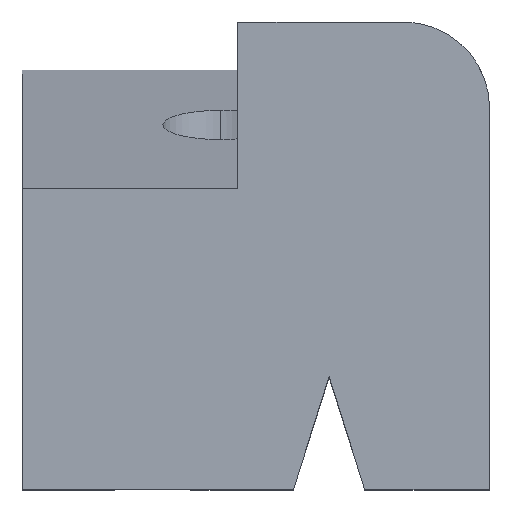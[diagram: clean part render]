
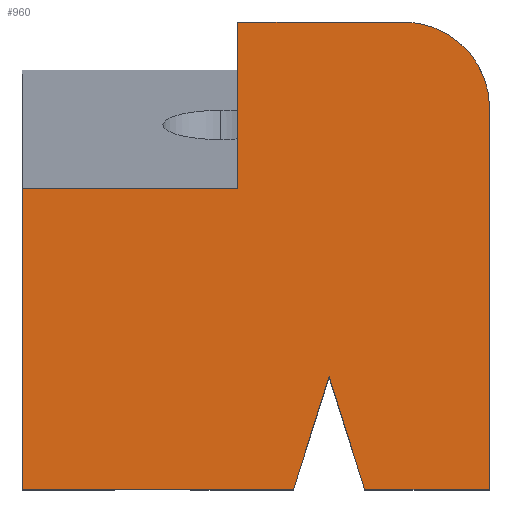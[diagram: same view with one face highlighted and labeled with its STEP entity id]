
A CAD part, top view. The second image highlights one B-rep face of the part: STEP entity #960.
In plain terms, the highlighted planar face has unit normal (0, 0, 1).
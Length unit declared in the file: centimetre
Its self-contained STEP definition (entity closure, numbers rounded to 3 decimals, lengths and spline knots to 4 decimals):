
#2 = CARTESIAN_POINT ( 'NONE',  ( 0., 644.4436, 1000. ) ) ;
#8 = ORIENTED_EDGE ( 'NONE', *, *, #977, .T. ) ;
#36 = CIRCLE ( 'NONE', #554, 184.4724 ) ;
#38 = EDGE_CURVE ( 'NONE', #401, #1019, #383, .T. ) ;
#127 = ORIENTED_EDGE ( 'NONE', *, *, #387, .F. ) ;
#196 = CARTESIAN_POINT ( 'NONE',  ( 0., 0., 1000. ) ) ;
#198 = ORIENTED_EDGE ( 'NONE', *, *, #702, .T. ) ;
#208 = DIRECTION ( 'NONE',  ( -1., 0., 0. ) ) ;
#240 = FACE_OUTER_BOUND ( 'NONE', #493, .T. ) ;
#243 = DIRECTION ( 'NONE',  ( 1., 0., 0. ) ) ;
#260 = LINE ( 'NONE', #674, #475 ) ;
#294 = VERTEX_POINT ( 'NONE', #330 ) ;
#300 = VECTOR ( 'NONE', #1186, 100. ) ;
#330 = CARTESIAN_POINT ( 'NONE',  ( 1000., 0., 1000. ) ) ;
#337 = DIRECTION ( 'NONE',  ( 0., 0., 1. ) ) ;
#341 = CARTESIAN_POINT ( 'NONE',  ( 815.5276, 815.5276, 1000. ) ) ;
#364 = CARTESIAN_POINT ( 'NONE',  ( 815.5276, 1000., 1000. ) ) ;
#383 = LINE ( 'NONE', #580, #786 ) ;
#387 = EDGE_CURVE ( 'NONE', #1162, #773, #752, .T. ) ;
#401 = VERTEX_POINT ( 'NONE', #1282 ) ;
#443 = DIRECTION ( 'NONE',  ( 0., 0., 1. ) ) ;
#461 = VERTEX_POINT ( 'NONE', #789 ) ;
#464 = EDGE_CURVE ( 'NONE', #1019, #1060, #781, .T. ) ;
#475 = VECTOR ( 'NONE', #584, 100. ) ;
#493 = EDGE_LOOP ( 'NONE', ( #1243, #619, #1293, #1105, #719, #8, #198, #544, #1078, #127 ) ) ;
#511 = AXIS2_PLACEMENT_3D ( 'NONE', #1278, #337, #654 ) ;
#544 = ORIENTED_EDGE ( 'NONE', *, *, #935, .T. ) ;
#548 = LINE ( 'NONE', #955, #1130 ) ;
#554 = AXIS2_PLACEMENT_3D ( 'NONE', #341, #443, #872 ) ;
#567 = DIRECTION ( 'NONE',  ( -0.301, -0.954, 0. ) ) ;
#572 = CARTESIAN_POINT ( 'NONE',  ( 0., 1000., 1000. ) ) ;
#578 = VERTEX_POINT ( 'NONE', #364 ) ;
#580 = CARTESIAN_POINT ( 'NONE',  ( 656.4375, 240.9348, 1000. ) ) ;
#584 = DIRECTION ( 'NONE',  ( -1., 0., 0. ) ) ;
#593 = VECTOR ( 'NONE', #694, 100. ) ;
#595 = DIRECTION ( 'NONE',  ( 1., 0., 0. ) ) ;
#602 = CARTESIAN_POINT ( 'NONE',  ( 0., 0., 1000. ) ) ;
#619 = ORIENTED_EDGE ( 'NONE', *, *, #620, .T. ) ;
#620 = EDGE_CURVE ( 'NONE', #738, #681, #774, .T. ) ;
#626 = VECTOR ( 'NONE', #1158, 100. ) ;
#628 = EDGE_CURVE ( 'NONE', #1162, #738, #260, .T. ) ;
#629 = LINE ( 'NONE', #1134, #661 ) ;
#654 = DIRECTION ( 'NONE',  ( 1., 0., 0. ) ) ;
#661 = VECTOR ( 'NONE', #208, 100. ) ;
#674 = CARTESIAN_POINT ( 'NONE',  ( 461.2029, 644.4436, 1000. ) ) ;
#681 = VERTEX_POINT ( 'NONE', #602 ) ;
#694 = DIRECTION ( 'NONE',  ( 0., 1., 0. ) ) ;
#702 = EDGE_CURVE ( 'NONE', #294, #461, #715, .T. ) ;
#715 = LINE ( 'NONE', #1093, #593 ) ;
#719 = ORIENTED_EDGE ( 'NONE', *, *, #38, .F. ) ;
#738 = VERTEX_POINT ( 'NONE', #2 ) ;
#747 = CARTESIAN_POINT ( 'NONE',  ( 461.2029, 1000., 1000. ) ) ;
#752 = LINE ( 'NONE', #747, #626 ) ;
#768 = VECTOR ( 'NONE', #567, 100. ) ;
#773 = VERTEX_POINT ( 'NONE', #845 ) ;
#774 = LINE ( 'NONE', #572, #300 ) ;
#781 = LINE ( 'NONE', #1194, #768 ) ;
#786 = VECTOR ( 'NONE', #798, 100. ) ;
#789 = CARTESIAN_POINT ( 'NONE',  ( 1000., 815.5276, 1000. ) ) ;
#798 = DIRECTION ( 'NONE',  ( -0.301, 0.954, 0. ) ) ;
#820 = CARTESIAN_POINT ( 'NONE',  ( 461.2029, 644.4436, 1000. ) ) ;
#845 = CARTESIAN_POINT ( 'NONE',  ( 461.2029, 1000., 1000. ) ) ;
#872 = DIRECTION ( 'NONE',  ( 1., 0., 0. ) ) ;
#907 = CARTESIAN_POINT ( 'NONE',  ( 656.4375, 240.9348, 1000. ) ) ;
#935 = EDGE_CURVE ( 'NONE', #461, #578, #36, .T. ) ;
#942 = VECTOR ( 'NONE', #595, 100. ) ;
#955 = CARTESIAN_POINT ( 'NONE',  ( 0., 0., 1000. ) ) ;
#960 = ADVANCED_FACE ( 'NONE', ( #240 ), #1298, .T. ) ;
#977 = EDGE_CURVE ( 'NONE', #401, #294, #548, .T. ) ;
#1019 = VERTEX_POINT ( 'NONE', #907 ) ;
#1050 = EDGE_CURVE ( 'NONE', #681, #1060, #1339, .T. ) ;
#1060 = VERTEX_POINT ( 'NONE', #1199 ) ;
#1078 = ORIENTED_EDGE ( 'NONE', *, *, #1209, .T. ) ;
#1093 = CARTESIAN_POINT ( 'NONE',  ( 1000., 1000., 1000. ) ) ;
#1105 = ORIENTED_EDGE ( 'NONE', *, *, #464, .F. ) ;
#1130 = VECTOR ( 'NONE', #243, 100. ) ;
#1134 = CARTESIAN_POINT ( 'NONE',  ( 0., 1000., 1000. ) ) ;
#1158 = DIRECTION ( 'NONE',  ( 0., 1., 0. ) ) ;
#1162 = VERTEX_POINT ( 'NONE', #820 ) ;
#1186 = DIRECTION ( 'NONE',  ( 0., -1., 0. ) ) ;
#1194 = CARTESIAN_POINT ( 'NONE',  ( 580.368, 0., 1000. ) ) ;
#1199 = CARTESIAN_POINT ( 'NONE',  ( 580.368, 0., 1000. ) ) ;
#1209 = EDGE_CURVE ( 'NONE', #578, #773, #629, .T. ) ;
#1243 = ORIENTED_EDGE ( 'NONE', *, *, #628, .T. ) ;
#1278 = CARTESIAN_POINT ( 'NONE',  ( 0., 0., 1000. ) ) ;
#1282 = CARTESIAN_POINT ( 'NONE',  ( 732.5071, 0., 1000. ) ) ;
#1293 = ORIENTED_EDGE ( 'NONE', *, *, #1050, .T. ) ;
#1298 = PLANE ( 'NONE',  #511 ) ;
#1339 = LINE ( 'NONE', #196, #942 ) ;
